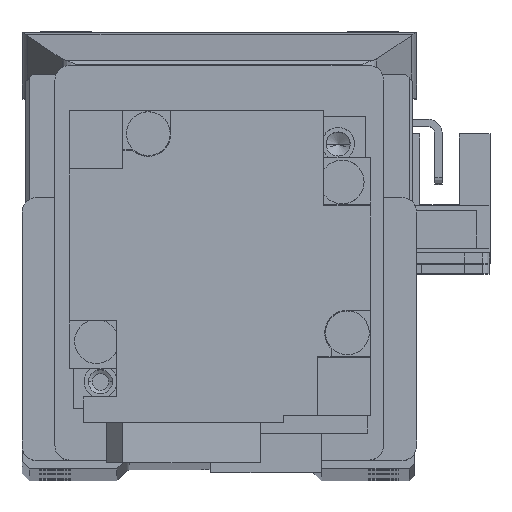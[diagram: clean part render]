
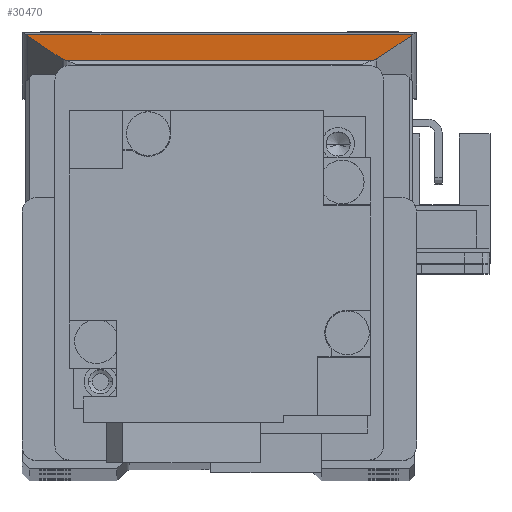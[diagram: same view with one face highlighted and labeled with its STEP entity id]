
A CAD part, top view. The second image highlights one B-rep face of the part: STEP entity #30470.
In plain terms, the highlighted planar face has unit normal (0, 0.966, 0.258).
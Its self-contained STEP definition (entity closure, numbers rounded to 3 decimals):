
#484 = ORIENTED_EDGE ( 'NONE', *, *, #15796, .F. ) ;
#845 = ORIENTED_EDGE ( 'NONE', *, *, #35913, .T. ) ;
#848 = CARTESIAN_POINT ( 'NONE',  ( -21.503, 46.535, 56.743 ) ) ;
#1527 = LINE ( 'NONE', #18699, #32074 ) ;
#2304 = CARTESIAN_POINT ( 'NONE',  ( -26.285, 49.723, 44.788 ) ) ;
#2445 = CARTESIAN_POINT ( 'NONE',  ( -26.354, 49.769, 44.616 ) ) ;
#2531 = AXIS2_PLACEMENT_3D ( 'NONE', #9858, #36923, #4008 ) ;
#4008 = DIRECTION ( 'NONE',  ( 0., 0.258, -0.966 ) ) ;
#6365 = DIRECTION ( 'NONE',  ( -1., 0., 0. ) ) ;
#6546 =( BOUNDED_CURVE ( )  B_SPLINE_CURVE ( 3, ( #11865, #32520, #14679, #17405 ),
 .UNSPECIFIED., .F., .F. ) 
 B_SPLINE_CURVE_WITH_KNOTS ( ( 4, 4 ),
 ( 1.951, 2.523 ),
 .UNSPECIFIED. ) 
 CURVE ( )  GEOMETRIC_REPRESENTATION_ITEM ( )  RATIONAL_B_SPLINE_CURVE ( ( 1., 0.973, 0.973, 1. ) ) 
 REPRESENTATION_ITEM ( '' )  );
#6813 = EDGE_CURVE ( 'NONE', #23524, #6844, #11685, .T. ) ;
#6844 = VERTEX_POINT ( 'NONE', #26790 ) ;
#7372 = VERTEX_POINT ( 'NONE', #848 ) ;
#7420 = ORIENTED_EDGE ( 'NONE', *, *, #6813, .T. ) ;
#7656 = CARTESIAN_POINT ( 'NONE',  ( 26.285, 49.723, 44.788 ) ) ;
#8035 = CARTESIAN_POINT ( 'NONE',  ( 26.477, 49.862, 44.266 ) ) ;
#8781 = FACE_OUTER_BOUND ( 'NONE', #12481, .T. ) ;
#9221 = CARTESIAN_POINT ( 'NONE',  ( 27., 49.862, 44.266 ) ) ;
#9858 = CARTESIAN_POINT ( 'NONE',  ( 27., 46.299, 57.629 ) ) ;
#10342 = EDGE_CURVE ( 'NONE', #35889, #23524, #20803, .T. ) ;
#11197 = VERTEX_POINT ( 'NONE', #18971 ) ;
#11249 = CARTESIAN_POINT ( 'NONE',  ( 27., 46.299, 57.629 ) ) ;
#11685 = LINE ( 'NONE', #9221, #16312 ) ;
#11704 = LINE ( 'NONE', #11249, #36627 ) ;
#11865 = CARTESIAN_POINT ( 'NONE',  ( -21.503, 46.535, 56.743 ) ) ;
#12143 = CARTESIAN_POINT ( 'NONE',  ( 20.806, 46.299, 57.629 ) ) ;
#12398 = CARTESIAN_POINT ( 'NONE',  ( 21.36, 46.44, 57.101 ) ) ;
#12427 = ORIENTED_EDGE ( 'NONE', *, *, #15518, .T. ) ;
#12481 = EDGE_LOOP ( 'NONE', ( #29735, #28791, #7420, #845, #12427, #30690, #484, #27836 ) ) ;
#13214 = EDGE_CURVE ( 'NONE', #16570, #29150, #34750, .T. ) ;
#14679 = CARTESIAN_POINT ( 'NONE',  ( -21.121, 46.359, 57.405 ) ) ;
#15518 = EDGE_CURVE ( 'NONE', #24076, #7372, #1527, .T. ) ;
#15796 = EDGE_CURVE ( 'NONE', #16570, #11197, #11704, .T. ) ;
#15922 = CARTESIAN_POINT ( 'NONE',  ( 21.503, 46.535, 56.743 ) ) ;
#16292 = PLANE ( 'NONE',  #2531 ) ;
#16312 = VECTOR ( 'NONE', #6365, 1000. ) ;
#16570 = VERTEX_POINT ( 'NONE', #26709 ) ;
#17405 = CARTESIAN_POINT ( 'NONE',  ( -20.806, 46.299, 57.629 ) ) ;
#17672 = EDGE_CURVE ( 'NONE', #29150, #35889, #31715, .T. ) ;
#18699 = CARTESIAN_POINT ( 'NONE',  ( -14.891, 42.127, 73.273 ) ) ;
#18971 = CARTESIAN_POINT ( 'NONE',  ( -20.806, 46.299, 57.629 ) ) ;
#20293 = DIRECTION ( 'NONE',  ( 0.361, 0.24, -0.901 ) ) ;
#20420 = CARTESIAN_POINT ( 'NONE',  ( -26.477, 49.862, 44.266 ) ) ;
#20803 =( BOUNDED_CURVE ( )  B_SPLINE_CURVE ( 3, ( #22776, #25602, #34644, #8035 ),
 .UNSPECIFIED., .F., .F. ) 
 B_SPLINE_CURVE_WITH_KNOTS ( ( 4, 4 ),
 ( 4.332, 4.388 ),
 .UNSPECIFIED. ) 
 CURVE ( )  GEOMETRIC_REPRESENTATION_ITEM ( )  RATIONAL_B_SPLINE_CURVE ( ( 1., 1., 1., 1. ) ) 
 REPRESENTATION_ITEM ( '' )  );
#21206 = CARTESIAN_POINT ( 'NONE',  ( 21.121, 46.359, 57.405 ) ) ;
#21563 = DIRECTION ( 'NONE',  ( 0.361, -0.24, 0.901 ) ) ;
#21603 = VECTOR ( 'NONE', #20293, 1000. ) ;
#22776 = CARTESIAN_POINT ( 'NONE',  ( 26.285, 49.723, 44.788 ) ) ;
#23293 = CARTESIAN_POINT ( 'NONE',  ( 21.909, 46.806, 55.728 ) ) ;
#23301 = DIRECTION ( 'NONE',  ( -1., 0., 0. ) ) ;
#23524 = VERTEX_POINT ( 'NONE', #28607 ) ;
#24076 = VERTEX_POINT ( 'NONE', #33161 ) ;
#25602 = CARTESIAN_POINT ( 'NONE',  ( 26.354, 49.769, 44.616 ) ) ;
#26709 = CARTESIAN_POINT ( 'NONE',  ( 20.806, 46.299, 57.629 ) ) ;
#26790 = CARTESIAN_POINT ( 'NONE',  ( -26.477, 49.862, 44.266 ) ) ;
#27836 = ORIENTED_EDGE ( 'NONE', *, *, #13214, .T. ) ;
#28607 = CARTESIAN_POINT ( 'NONE',  ( 26.477, 49.862, 44.266 ) ) ;
#28791 = ORIENTED_EDGE ( 'NONE', *, *, #10342, .T. ) ;
#29150 = VERTEX_POINT ( 'NONE', #15922 ) ;
#29735 = ORIENTED_EDGE ( 'NONE', *, *, #17672, .T. ) ;
#30462 = CARTESIAN_POINT ( 'NONE',  ( 21.503, 46.535, 56.743 ) ) ;
#30470 = ADVANCED_FACE ( 'NONE', ( #8781 ), #16292, .F. ) ;
#30690 = ORIENTED_EDGE ( 'NONE', *, *, #38202, .T. ) ;
#31715 = LINE ( 'NONE', #23293, #21603 ) ;
#32074 = VECTOR ( 'NONE', #21563, 1000. ) ;
#32167 = CARTESIAN_POINT ( 'NONE',  ( -26.418, 49.815, 44.442 ) ) ;
#32520 = CARTESIAN_POINT ( 'NONE',  ( -21.36, 46.44, 57.101 ) ) ;
#33161 = CARTESIAN_POINT ( 'NONE',  ( -26.285, 49.723, 44.788 ) ) ;
#34644 = CARTESIAN_POINT ( 'NONE',  ( 26.418, 49.815, 44.442 ) ) ;
#34750 =( BOUNDED_CURVE ( )  B_SPLINE_CURVE ( 3, ( #12143, #21206, #12398, #30462 ),
 .UNSPECIFIED., .F., .F. ) 
 B_SPLINE_CURVE_WITH_KNOTS ( ( 4, 4 ),
 ( 3.761, 4.332 ),
 .UNSPECIFIED. ) 
 CURVE ( )  GEOMETRIC_REPRESENTATION_ITEM ( )  RATIONAL_B_SPLINE_CURVE ( ( 1., 0.973, 0.973, 1. ) ) 
 REPRESENTATION_ITEM ( '' )  );
#34993 =( BOUNDED_CURVE ( )  B_SPLINE_CURVE ( 3, ( #20420, #32167, #2445, #2304 ),
 .UNSPECIFIED., .F., .F. ) 
 B_SPLINE_CURVE_WITH_KNOTS ( ( 4, 4 ),
 ( 1.896, 1.951 ),
 .UNSPECIFIED. ) 
 CURVE ( )  GEOMETRIC_REPRESENTATION_ITEM ( )  RATIONAL_B_SPLINE_CURVE ( ( 1., 1., 1., 1. ) ) 
 REPRESENTATION_ITEM ( '' )  );
#35889 = VERTEX_POINT ( 'NONE', #7656 ) ;
#35913 = EDGE_CURVE ( 'NONE', #6844, #24076, #34993, .T. ) ;
#36627 = VECTOR ( 'NONE', #23301, 1000. ) ;
#36923 = DIRECTION ( 'NONE',  ( 0., -0.966, -0.258 ) ) ;
#38202 = EDGE_CURVE ( 'NONE', #7372, #11197, #6546, .T. ) ;
